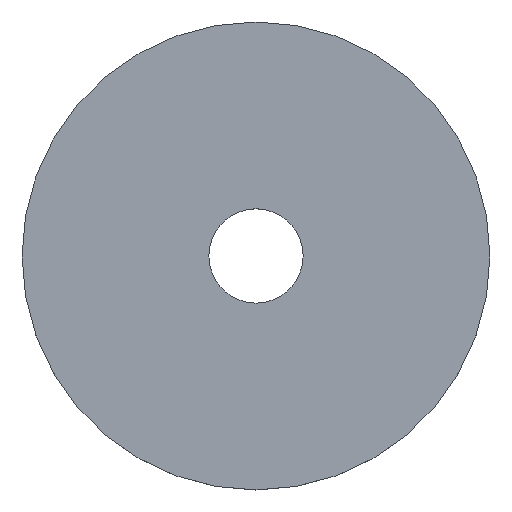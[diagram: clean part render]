
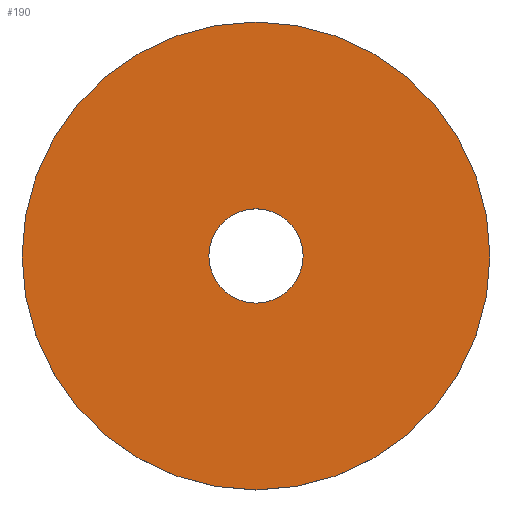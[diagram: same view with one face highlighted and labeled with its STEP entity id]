
A CAD part, top view. The second image highlights one B-rep face of the part: STEP entity #190.
In plain terms, the highlighted planar face has unit normal (0, 0, 1).
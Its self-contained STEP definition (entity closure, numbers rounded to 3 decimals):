
#24 = VERTEX_POINT('',#25);
#25 = CARTESIAN_POINT('',(24.8,0.,3.1));
#32 = CYLINDRICAL_SURFACE('',#33,24.8);
#33 = AXIS2_PLACEMENT_3D('',#34,#35,#36);
#34 = CARTESIAN_POINT('',(0.,0.,0.1));
#35 = DIRECTION('',(-0.,-0.,-1.));
#36 = DIRECTION('',(1.,0.,0.));
#51 = EDGE_CURVE('',#24,#24,#52,.T.);
#52 = SURFACE_CURVE('',#53,(#58,#65),.PCURVE_S1.);
#53 = CIRCLE('',#54,24.8);
#54 = AXIS2_PLACEMENT_3D('',#55,#56,#57);
#55 = CARTESIAN_POINT('',(0.,0.,3.1));
#56 = DIRECTION('',(0.,0.,1.));
#57 = DIRECTION('',(1.,0.,0.));
#58 = PCURVE('',#32,#59);
#59 = DEFINITIONAL_REPRESENTATION('',(#60),#64);
#60 = LINE('',#61,#62);
#61 = CARTESIAN_POINT('',(-0.,-3.));
#62 = VECTOR('',#63,1.);
#63 = DIRECTION('',(-1.,0.));
#64 = ( GEOMETRIC_REPRESENTATION_CONTEXT(2) 
PARAMETRIC_REPRESENTATION_CONTEXT() REPRESENTATION_CONTEXT('2D SPACE',''
  ) );
#65 = PCURVE('',#66,#71);
#66 = PLANE('',#67);
#67 = AXIS2_PLACEMENT_3D('',#68,#69,#70);
#68 = CARTESIAN_POINT('',(0.,0.,3.1));
#69 = DIRECTION('',(0.,0.,1.));
#70 = DIRECTION('',(1.,0.,-0.));
#71 = DEFINITIONAL_REPRESENTATION('',(#72),#76);
#72 = CIRCLE('',#73,24.8);
#73 = AXIS2_PLACEMENT_2D('',#74,#75);
#74 = CARTESIAN_POINT('',(0.,0.));
#75 = DIRECTION('',(1.,0.));
#76 = ( GEOMETRIC_REPRESENTATION_CONTEXT(2) 
PARAMETRIC_REPRESENTATION_CONTEXT() REPRESENTATION_CONTEXT('2D SPACE',''
  ) );
#112 = VERTEX_POINT('',#113);
#113 = CARTESIAN_POINT('',(5.,0.,3.1));
#120 = CYLINDRICAL_SURFACE('',#121,5.);
#121 = AXIS2_PLACEMENT_3D('',#122,#123,#124);
#122 = CARTESIAN_POINT('',(0.,0.,0.1));
#123 = DIRECTION('',(-0.,-0.,-1.));
#124 = DIRECTION('',(1.,0.,0.));
#139 = EDGE_CURVE('',#112,#112,#140,.T.);
#140 = SURFACE_CURVE('',#141,(#146,#153),.PCURVE_S1.);
#141 = CIRCLE('',#142,5.);
#142 = AXIS2_PLACEMENT_3D('',#143,#144,#145);
#143 = CARTESIAN_POINT('',(0.,0.,3.1));
#144 = DIRECTION('',(0.,0.,1.));
#145 = DIRECTION('',(1.,0.,0.));
#146 = PCURVE('',#120,#147);
#147 = DEFINITIONAL_REPRESENTATION('',(#148),#152);
#148 = LINE('',#149,#150);
#149 = CARTESIAN_POINT('',(-0.,-3.));
#150 = VECTOR('',#151,1.);
#151 = DIRECTION('',(-1.,0.));
#152 = ( GEOMETRIC_REPRESENTATION_CONTEXT(2) 
PARAMETRIC_REPRESENTATION_CONTEXT() REPRESENTATION_CONTEXT('2D SPACE',''
  ) );
#153 = PCURVE('',#66,#154);
#154 = DEFINITIONAL_REPRESENTATION('',(#155),#159);
#155 = CIRCLE('',#156,5.);
#156 = AXIS2_PLACEMENT_2D('',#157,#158);
#157 = CARTESIAN_POINT('',(0.,0.));
#158 = DIRECTION('',(1.,0.));
#159 = ( GEOMETRIC_REPRESENTATION_CONTEXT(2) 
PARAMETRIC_REPRESENTATION_CONTEXT() REPRESENTATION_CONTEXT('2D SPACE',''
  ) );
#190 = ADVANCED_FACE('',(#191,#194),#66,.T.);
#191 = FACE_BOUND('',#192,.T.);
#192 = EDGE_LOOP('',(#193));
#193 = ORIENTED_EDGE('',*,*,#51,.T.);
#194 = FACE_BOUND('',#195,.T.);
#195 = EDGE_LOOP('',(#196));
#196 = ORIENTED_EDGE('',*,*,#139,.F.);
